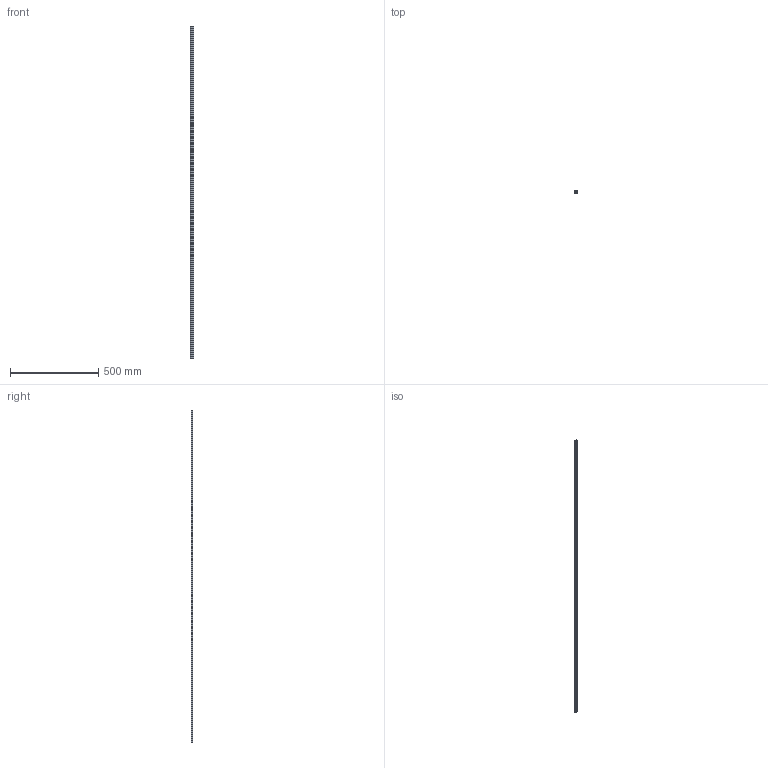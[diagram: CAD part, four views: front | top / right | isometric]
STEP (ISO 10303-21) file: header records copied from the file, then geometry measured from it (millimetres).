
FILE_DESCRIPTION(('STEP AP203'),'1');
FILE_NAME('slide_nv20l1886p2.stp','2022-07-01T04:23:20',('TraceParts'),('TraceParts S.A.'),'Spatial InterOp 3D',' ',' ');
FILE_SCHEMA(('CONFIG_CONTROL_DESIGN'));
Length unit declared in the file: millimetre
Products named in the file (1): 1
Bounding box: 19.63 x 10.41 x 1886 mm (x, y, z)
Volume: 248197.5 mm3; surface area: 114549.4 mm2
Topology: 1 solids, 1 shells, 133 faces, 330 edges, 220 vertices
Faces by surface type: cylinder 96, plane 37
Entity records: 4184 total; most frequent: DIRECTION 790, CARTESIAN_POINT 684, ORIENTED_EDGE 660, EDGE_CURVE 330, AXIS2_PLACEMENT_3D 326, VERTEX_POINT 220, EDGE_LOOP 196, CIRCLE 192
